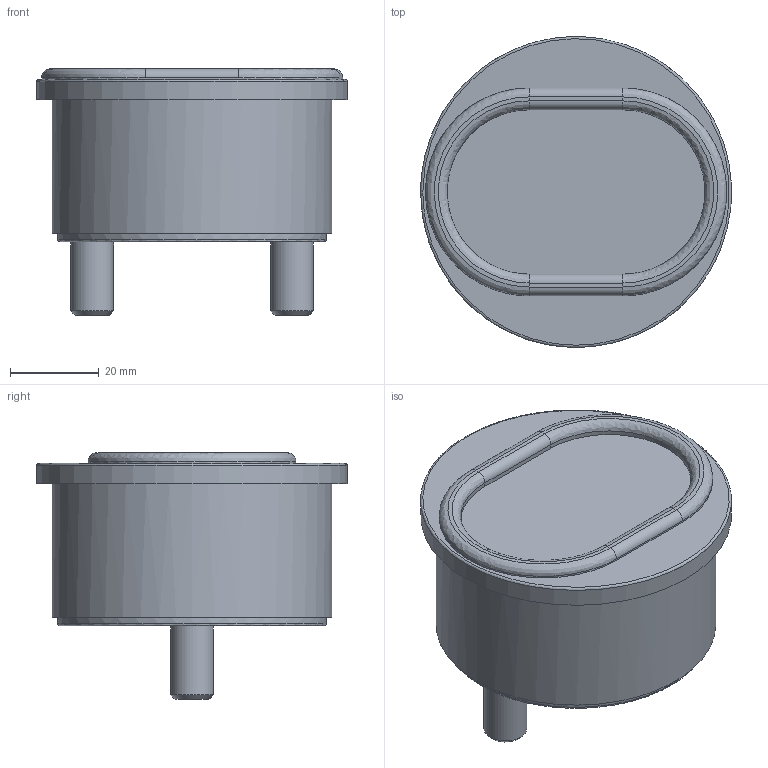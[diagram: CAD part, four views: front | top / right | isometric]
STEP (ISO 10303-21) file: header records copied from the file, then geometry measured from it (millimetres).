
FILE_DESCRIPTION(/* description */ (''),/* implementation_level */ '2;1');
FILE_NAME(/* name */ '7',/* time_stamp */ '2022-06-30T10:47:46+02:00',/* author */ (''),/* organization */ (''),/* preprocessor_version */ 'ST-DEVELOPER v16.5',/* originating_system */ 'Rhino 7.20',/* authorisation */ '');
FILE_SCHEMA (('AUTOMOTIVE_DESIGN_CC2'));
Length unit declared in the file: millimetre
Products named in the file (1): Document
Bounding box: 69.97 x 69.98 x 55.5 mm (x, y, z)
Volume: 119989.8 mm3; surface area: 16540.3 mm2
Topology: 1 solids, 1 shells, 36 faces, 67 edges, 38 vertices
Faces by surface type: plane 15, cylinder 13, bspline 8
Full cylindrical faces by diameter (mm): 9.64 x2, 60.5 x1, 63 x1, 70 x1
Entity records: 986 total; most frequent: CARTESIAN_POINT 508, ORIENTED_EDGE 134, EDGE_CURVE 67, EDGE_LOOP 41, VERTEX_POINT 38, ADVANCED_FACE 36, FACE_OUTER_BOUND 36, DIRECTION 32
